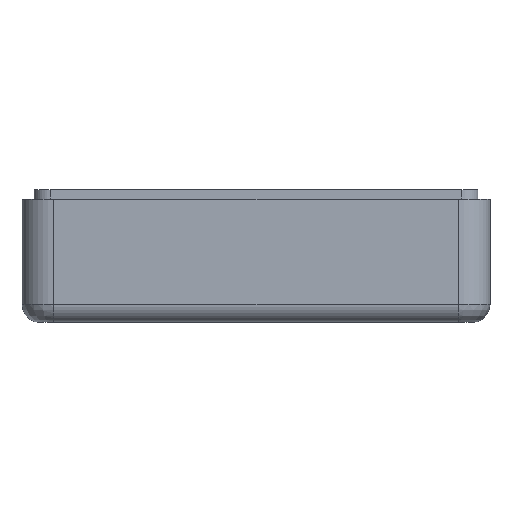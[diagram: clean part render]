
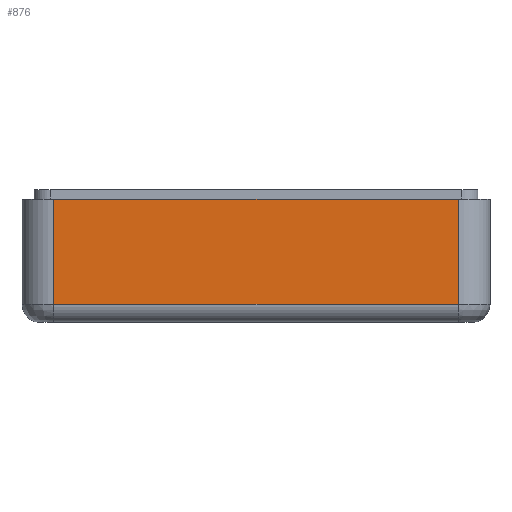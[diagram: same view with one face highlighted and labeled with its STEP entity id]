
A CAD part, left-side view. The second image highlights one B-rep face of the part: STEP entity #876.
In plain terms, the highlighted planar face has unit normal (-1, 0, 0).
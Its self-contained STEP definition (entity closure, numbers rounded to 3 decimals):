
#72 = CYLINDRICAL_SURFACE('',#73,2.1);
#73 = AXIS2_PLACEMENT_3D('',#74,#75,#76);
#74 = CARTESIAN_POINT('',(0.45,-26.65,-8.02));
#75 = DIRECTION('',(0.,0.,1.));
#76 = DIRECTION('',(0.,-1.,0.));
#100 = PLANE('',#101);
#101 = AXIS2_PLACEMENT_3D('',#102,#103,#104);
#102 = CARTESIAN_POINT('',(-6.25,-33.35,0.1));
#103 = DIRECTION('',(0.,0.,1.));
#104 = DIRECTION('',(1.,0.,-0.));
#747 = CYLINDRICAL_SURFACE('',#748,2.1);
#748 = AXIS2_PLACEMENT_3D('',#749,#750,#751);
#749 = CARTESIAN_POINT('',(0.45,-0.05,-8.02));
#750 = DIRECTION('',(0.,0.,1.));
#751 = DIRECTION('',(-0.,1.,0.));
#789 = VERTEX_POINT('',#790);
#790 = CARTESIAN_POINT('',(-1.65,-0.05,-6.82));
#827 = EDGE_CURVE('',#789,#828,#830,.T.);
#828 = VERTEX_POINT('',#829);
#829 = CARTESIAN_POINT('',(-1.65,-0.05,0.1));
#830 = SURFACE_CURVE('',#831,(#835,#842),.PCURVE_S1.);
#831 = LINE('',#832,#833);
#832 = CARTESIAN_POINT('',(-1.65,-0.05,-8.02));
#833 = VECTOR('',#834,1.);
#834 = DIRECTION('',(0.,0.,1.));
#835 = PCURVE('',#747,#836);
#836 = DEFINITIONAL_REPRESENTATION('',(#837),#841);
#837 = LINE('',#838,#839);
#838 = CARTESIAN_POINT('',(1.571,0.));
#839 = VECTOR('',#840,1.);
#840 = DIRECTION('',(0.,1.));
#841 = ( GEOMETRIC_REPRESENTATION_CONTEXT(2) 
PARAMETRIC_REPRESENTATION_CONTEXT() REPRESENTATION_CONTEXT('2D SPACE',''
  ) );
#842 = PCURVE('',#843,#848);
#843 = PLANE('',#844);
#844 = AXIS2_PLACEMENT_3D('',#845,#846,#847);
#845 = CARTESIAN_POINT('',(-1.65,2.05,-8.02));
#846 = DIRECTION('',(1.,0.,-0.));
#847 = DIRECTION('',(0.,-1.,0.));
#848 = DEFINITIONAL_REPRESENTATION('',(#849),#853);
#849 = LINE('',#850,#851);
#850 = CARTESIAN_POINT('',(2.1,0.));
#851 = VECTOR('',#852,1.);
#852 = DIRECTION('',(0.,-1.));
#853 = ( GEOMETRIC_REPRESENTATION_CONTEXT(2) 
PARAMETRIC_REPRESENTATION_CONTEXT() REPRESENTATION_CONTEXT('2D SPACE',''
  ) );
#876 = ADVANCED_FACE('',(#877),#843,.F.);
#877 = FACE_BOUND('',#878,.F.);
#878 = EDGE_LOOP('',(#879,#907,#908,#931));
#879 = ORIENTED_EDGE('',*,*,#880,.F.);
#880 = EDGE_CURVE('',#789,#881,#883,.T.);
#881 = VERTEX_POINT('',#882);
#882 = CARTESIAN_POINT('',(-1.65,-26.65,-6.82));
#883 = SURFACE_CURVE('',#884,(#888,#895),.PCURVE_S1.);
#884 = LINE('',#885,#886);
#885 = CARTESIAN_POINT('',(-1.65,-0.05,-6.82));
#886 = VECTOR('',#887,1.);
#887 = DIRECTION('',(0.,-1.,0.));
#888 = PCURVE('',#843,#889);
#889 = DEFINITIONAL_REPRESENTATION('',(#890),#894);
#890 = LINE('',#891,#892);
#891 = CARTESIAN_POINT('',(2.1,-1.2));
#892 = VECTOR('',#893,1.);
#893 = DIRECTION('',(1.,0.));
#894 = ( GEOMETRIC_REPRESENTATION_CONTEXT(2) 
PARAMETRIC_REPRESENTATION_CONTEXT() REPRESENTATION_CONTEXT('2D SPACE',''
  ) );
#895 = PCURVE('',#896,#901);
#896 = CYLINDRICAL_SURFACE('',#897,1.2);
#897 = AXIS2_PLACEMENT_3D('',#898,#899,#900);
#898 = CARTESIAN_POINT('',(-0.45,-0.05,-6.82));
#899 = DIRECTION('',(0.,-1.,0.));
#900 = DIRECTION('',(-1.,0.,0.));
#901 = DEFINITIONAL_REPRESENTATION('',(#902),#906);
#902 = LINE('',#903,#904);
#903 = CARTESIAN_POINT('',(0.,0.));
#904 = VECTOR('',#905,1.);
#905 = DIRECTION('',(0.,1.));
#906 = ( GEOMETRIC_REPRESENTATION_CONTEXT(2) 
PARAMETRIC_REPRESENTATION_CONTEXT() REPRESENTATION_CONTEXT('2D SPACE',''
  ) );
#907 = ORIENTED_EDGE('',*,*,#827,.T.);
#908 = ORIENTED_EDGE('',*,*,#909,.T.);
#909 = EDGE_CURVE('',#828,#910,#912,.T.);
#910 = VERTEX_POINT('',#911);
#911 = CARTESIAN_POINT('',(-1.65,-26.65,0.1));
#912 = SURFACE_CURVE('',#913,(#917,#924),.PCURVE_S1.);
#913 = LINE('',#914,#915);
#914 = CARTESIAN_POINT('',(-1.65,-15.65,0.1));
#915 = VECTOR('',#916,1.);
#916 = DIRECTION('',(0.,-1.,0.));
#917 = PCURVE('',#843,#918);
#918 = DEFINITIONAL_REPRESENTATION('',(#919),#923);
#919 = LINE('',#920,#921);
#920 = CARTESIAN_POINT('',(17.7,-8.12));
#921 = VECTOR('',#922,1.);
#922 = DIRECTION('',(1.,0.));
#923 = ( GEOMETRIC_REPRESENTATION_CONTEXT(2) 
PARAMETRIC_REPRESENTATION_CONTEXT() REPRESENTATION_CONTEXT('2D SPACE',''
  ) );
#924 = PCURVE('',#100,#925);
#925 = DEFINITIONAL_REPRESENTATION('',(#926),#930);
#926 = LINE('',#927,#928);
#927 = CARTESIAN_POINT('',(4.6,17.7));
#928 = VECTOR('',#929,1.);
#929 = DIRECTION('',(0.,-1.));
#930 = ( GEOMETRIC_REPRESENTATION_CONTEXT(2) 
PARAMETRIC_REPRESENTATION_CONTEXT() REPRESENTATION_CONTEXT('2D SPACE',''
  ) );
#931 = ORIENTED_EDGE('',*,*,#932,.F.);
#932 = EDGE_CURVE('',#881,#910,#933,.T.);
#933 = SURFACE_CURVE('',#934,(#938,#945),.PCURVE_S1.);
#934 = LINE('',#935,#936);
#935 = CARTESIAN_POINT('',(-1.65,-26.65,-8.02));
#936 = VECTOR('',#937,1.);
#937 = DIRECTION('',(0.,0.,1.));
#938 = PCURVE('',#843,#939);
#939 = DEFINITIONAL_REPRESENTATION('',(#940),#944);
#940 = LINE('',#941,#942);
#941 = CARTESIAN_POINT('',(28.7,0.));
#942 = VECTOR('',#943,1.);
#943 = DIRECTION('',(0.,-1.));
#944 = ( GEOMETRIC_REPRESENTATION_CONTEXT(2) 
PARAMETRIC_REPRESENTATION_CONTEXT() REPRESENTATION_CONTEXT('2D SPACE',''
  ) );
#945 = PCURVE('',#72,#946);
#946 = DEFINITIONAL_REPRESENTATION('',(#947),#951);
#947 = LINE('',#948,#949);
#948 = CARTESIAN_POINT('',(4.712,0.));
#949 = VECTOR('',#950,1.);
#950 = DIRECTION('',(-0.,1.));
#951 = ( GEOMETRIC_REPRESENTATION_CONTEXT(2) 
PARAMETRIC_REPRESENTATION_CONTEXT() REPRESENTATION_CONTEXT('2D SPACE',''
  ) );
